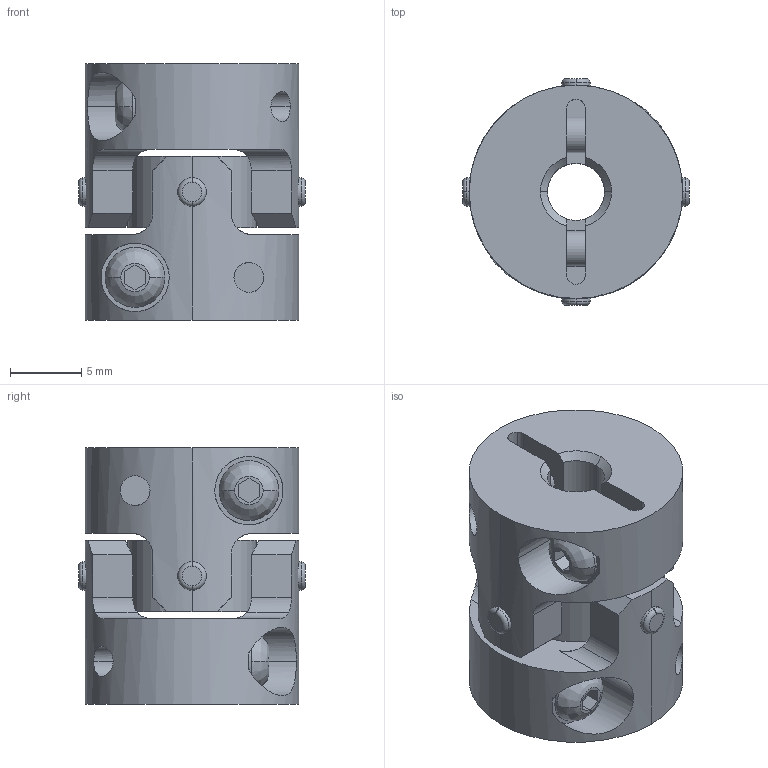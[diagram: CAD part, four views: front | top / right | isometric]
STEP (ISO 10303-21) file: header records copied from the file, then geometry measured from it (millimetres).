
FILE_DESCRIPTION((''),'2;1');
FILE_NAME('UA-15C-4×5.stp','2013-05-16T08:32:51',(''),(''),'AutoCAD STEP 2000i','AutoCAD 2000i',', , ');
FILE_SCHEMA(('CONFIG_CONTROL_DESIGN'));
Length unit declared in the file: millimetre
Products named in the file (6): UA-15C-3×3; 忣兜1; UA-1502-D03-1; BTN-M2.5; UA-1502-D03; UA15-SEN
Assembly tree (6 placements, depth 3):
  UA-15C-3×3
    忣兜1
    UA-1502-D03-1
      BTN-M2.5
    UA-1502-D03
      BTN-M2.5
    UA15-SEN
Bounding box: 15.94 x 15.94 x 18 mm (x, y, z)
Volume: 2274.9 mm3; surface area: 2363 mm2
Topology: 1 solids, 1 shells, 206 faces, 550 edges, 360 vertices
Faces by surface type: cylinder 96, plane 78, cone 16, bspline 8, torus 8
Entity records: 7955 total; most frequent: CARTESIAN_POINT 2659, ORIENTED_EDGE 1100, DIRECTION 1064, EDGE_CURVE 550, AXIS2_PLACEMENT_3D 409, VERTEX_POINT 360, VECTOR 246, LINE 246
